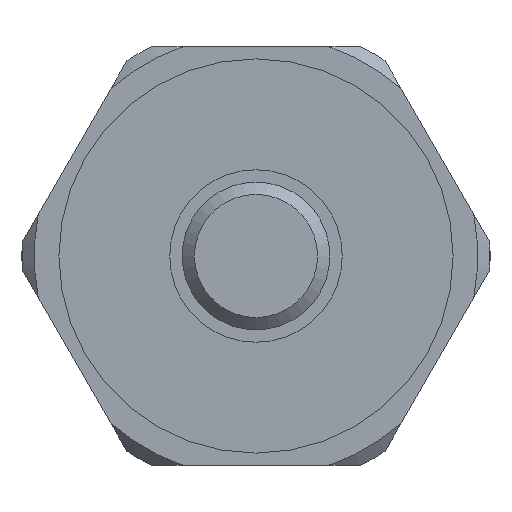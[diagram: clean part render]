
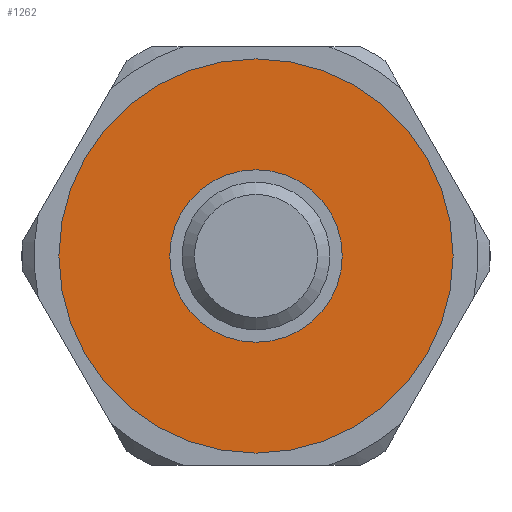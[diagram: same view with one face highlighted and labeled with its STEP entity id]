
A CAD part, left-side view. The second image highlights one B-rep face of the part: STEP entity #1262.
In plain terms, the highlighted planar face has unit normal (-1, 0, 0).
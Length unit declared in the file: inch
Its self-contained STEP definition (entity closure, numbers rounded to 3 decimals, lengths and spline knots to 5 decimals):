
#60=FACE_BOUND('',#198,.T.);
#80=PLANE('',#1396);
#126=FACE_OUTER_BOUND('',#197,.T.);
#197=EDGE_LOOP('',(#957,#958));
#198=EDGE_LOOP('',(#959,#960));
#352=CIRCLE('',#1324,0.1378);
#353=CIRCLE('',#1325,0.1378);
#388=CIRCLE('',#1394,0.31496);
#389=CIRCLE('',#1395,0.31496);
#456=VERTEX_POINT('',#1903);
#457=VERTEX_POINT('',#1904);
#516=VERTEX_POINT('',#2138);
#517=VERTEX_POINT('',#2139);
#582=EDGE_CURVE('',#456,#457,#352,.T.);
#583=EDGE_CURVE('',#457,#456,#353,.T.);
#675=EDGE_CURVE('',#516,#517,#388,.T.);
#676=EDGE_CURVE('',#517,#516,#389,.T.);
#957=ORIENTED_EDGE('',*,*,#675,.T.);
#958=ORIENTED_EDGE('',*,*,#676,.T.);
#959=ORIENTED_EDGE('',*,*,#582,.T.);
#960=ORIENTED_EDGE('',*,*,#583,.T.);
#1262=ADVANCED_FACE('',(#126,#60),#80,.T.);
#1324=AXIS2_PLACEMENT_3D('',#1905,#1506,#1507);
#1325=AXIS2_PLACEMENT_3D('',#1906,#1508,#1509);
#1394=AXIS2_PLACEMENT_3D('',#2140,#1679,#1680);
#1395=AXIS2_PLACEMENT_3D('',#2141,#1681,#1682);
#1396=AXIS2_PLACEMENT_3D('',#2143,#1684,#1685);
#1506=DIRECTION('center_axis',(1.,0.,0.));
#1507=DIRECTION('ref_axis',(0.,0.,1.));
#1508=DIRECTION('center_axis',(1.,0.,0.));
#1509=DIRECTION('ref_axis',(0.,0.,1.));
#1679=DIRECTION('center_axis',(-1.,0.,0.));
#1680=DIRECTION('ref_axis',(0.,0.,1.));
#1681=DIRECTION('center_axis',(-1.,0.,0.));
#1682=DIRECTION('ref_axis',(0.,0.,1.));
#1684=DIRECTION('center_axis',(-1.,0.,0.));
#1685=DIRECTION('ref_axis',(0.,0.,1.));
#1903=CARTESIAN_POINT('',(-2.21862,-0.42833,0.56421));
#1904=CARTESIAN_POINT('',(-2.21862,-0.42833,0.28862));
#1905=CARTESIAN_POINT('Origin',(-2.21862,-0.42833,0.42641));
#1906=CARTESIAN_POINT('Origin',(-2.21862,-0.42833,0.42641));
#2138=CARTESIAN_POINT('',(-2.21862,-0.42833,0.74137));
#2139=CARTESIAN_POINT('',(-2.21862,-0.42833,0.11145));
#2140=CARTESIAN_POINT('Origin',(-2.21862,-0.42833,0.42641));
#2141=CARTESIAN_POINT('Origin',(-2.21862,-0.42833,0.42641));
#2143=CARTESIAN_POINT('Origin',(-2.21862,-0.42833,0.42641));
